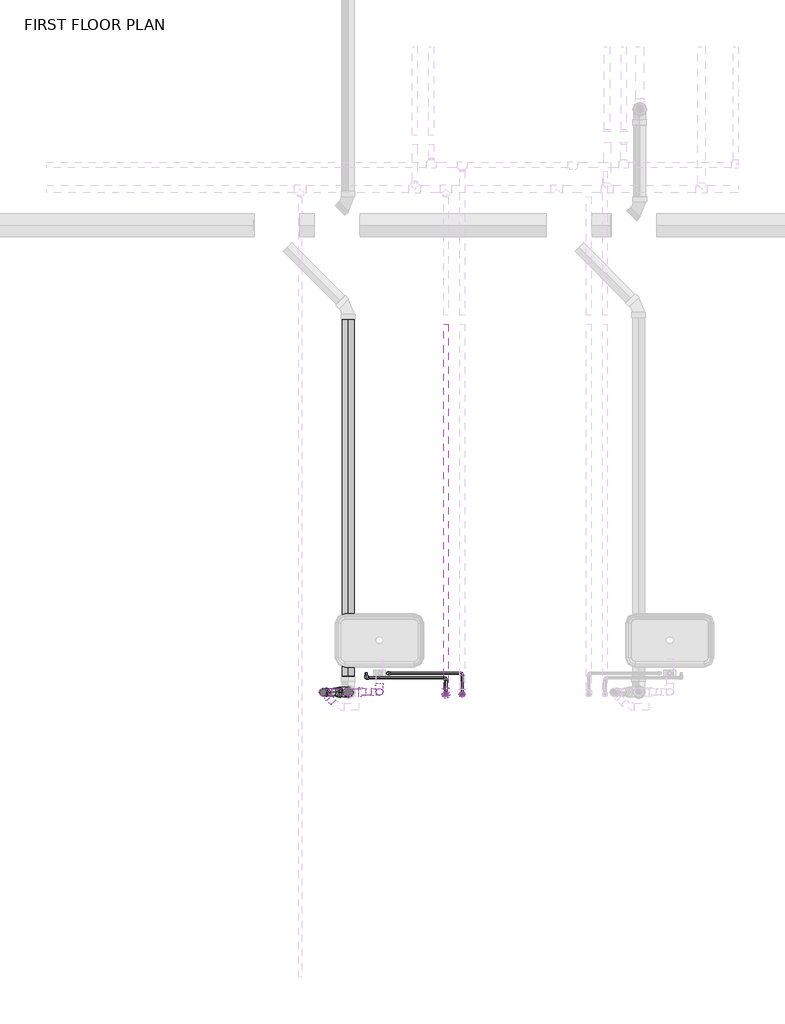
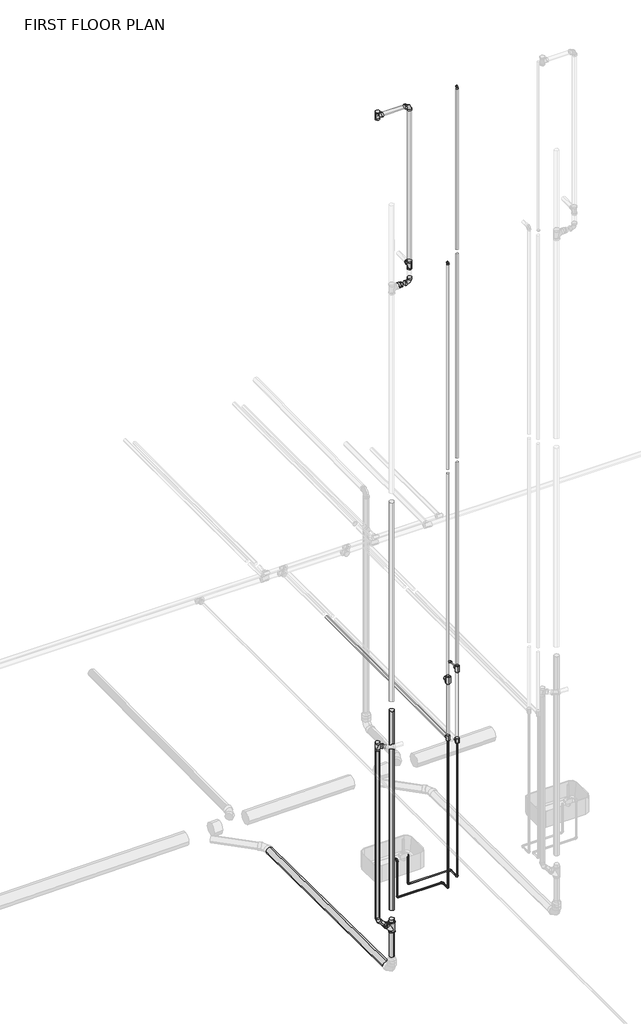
# One storey, part 10 of 29: 33 pipe fittings, 28 pipe segments.
"""IFC4 building model written with IfcOpenShell, lengths in millimetres."""

from ifc_helpers import new_model, si_unit, point, frame, frame_2d, origin, place, context, project, spatial, circle_curve, trimmed, segment, composite_curve, outline, extrude, transform, mapped, element, save
from ifc_brep_helpers import plane_surface, cylinder_surface, advanced_brep
from components import bend_pvc_sch_40_dwv_standard_80f96eb1, bend_pvc_sch_40_dwv_standard_35af41d9, bend_pvc_sch_40_dwv_standard_07560f8e, ges_wye_45_deg_threaded_mi_class_150_cast_iron_sanitary_c88a242e, pipe_elbow_copper_k_aad62f2d, pipe_elbow_copper_k_4cfe590c, pipe_tee_copper_k_36278b8a, pipe_tee_copper_k_7127fd44, pipe_tee_copper_k_60c871d1, pipe_transition_copper_k_5cd7eb3f, pipe_transition_copper_k_e8f139fb, pipe_transition_copper_k_0ad24bcb, pipe_transition_copper_k_8ba7ae3f, pipe_transition_copper_k_0f2e1631, pipe_transition_copper_k_f9440895, pipe_transition_copper_k_17d9deb3, pipe_transition_copper_k_4b29cc47, pipe_transition_copper_k_2a5e9307, pipe_transition_copper_k_c38f01a1, reducer_pvc_sch_40_dwv_standard_b23fa098, tee_sanitary_pvc_sch_40_dwv_standard_3578d342, tee_sanitary_pvc_sch_40_dwv_standard_31acfb72, tee_sanitary_pvc_sch_40_dwv_standard_70a8f0c3

model = new_model("IFC4")

# Units and contexts
model_context = context("Model", 3, world=origin())
ifc_project = project(units=[si_unit("LENGTHUNIT", "METRE", prefix="MILLI")], contexts=[model_context])

# Site, building, storey
site = spatial("IfcSite", under=ifc_project)
building = spatial("IfcBuilding", under=site)
storey = spatial("IfcBuildingStorey", under=building, Name="FIRST FLOOR PLAN", Elevation=0.0)

# Pipe fittings
placement = place(None, origin())
bend_pvc_sch_40_dwv_standard_shape = bend_pvc_sch_40_dwv_standard_80f96eb1(model_context)
element("IfcPipeFitting", 1, ObjectType="Bend - PVC - Sch 40 - DWV : Standard", at=placement, inside=storey, context=model_context, shape_type="MappedRepresentation", body=[
    mapped(bend_pvc_sch_40_dwv_standard_shape, transform((8467.5166496, 2089.7012881, 8872.178232), x_axis=(0.0, 0.0, -1.0), y_axis=(1.0, 0.0, 0.0), z_axis=(0.0, -1.0, 0.0))),
])
bend_pvc_sch_40_dwv_standard_2_shape = bend_pvc_sch_40_dwv_standard_35af41d9(model_context)
element("IfcPipeFitting", 2, ObjectType="Bend - PVC - Sch 40 - DWV : Standard", at=placement, inside=storey, context=model_context, shape_type="MappedRepresentation", body=[
    mapped(bend_pvc_sch_40_dwv_standard_2_shape, transform((8467.5209875, 2089.7012881, 11280.7857867), x_axis=(0.0, 0.0, 1.0), y_axis=(1.0, 0.0, 0.0), z_axis=(0.0, 1.0, 0.0))),
])
bend_pvc_sch_40_dwv_standard_3_shape = bend_pvc_sch_40_dwv_standard_07560f8e(model_context)
element("IfcPipeFitting", 3, ObjectType="Bend - PVC - Sch 40 - DWV : Standard", at=placement, inside=storey, context=model_context, shape_type="MappedRepresentation", body=[
    mapped(bend_pvc_sch_40_dwv_standard_3_shape, transform((8054.0612167, 2088.8602116, 307.0641667), x_axis=(0.0, 0.0, -1.0), y_axis=(-0.9999896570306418, -0.004548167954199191, 0.0), z_axis=(-0.004548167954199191, 0.9999896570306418, 0.0))),
])
ges_wye_45_deg_threaded_mi_class_150_cast_iron_sanitary_shape = ges_wye_45_deg_threaded_mi_class_150_cast_iron_sanitary_c88a242e(model_context)
element("IfcPipeFitting", 4, ObjectType="GES Wye 45 Deg - Threaded - MI - Class 150 : Cast Iron- Sanitary", at=placement, inside=storey, context=model_context, shape_type="MappedRepresentation", body=[
    mapped(ges_wye_45_deg_threaded_mi_class_150_cast_iron_sanitary_shape, transform((8238.7396365, 2089.8941393, 122.1428758), x_axis=(0.0, 0.0, 1.0), y_axis=(-0.9999896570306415, -0.004548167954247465, 0.0), z_axis=(0.004548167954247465, -0.9999896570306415, 0.0))),
])
pipe_elbow_copper_k_shape = pipe_elbow_copper_k_aad62f2d(model_context)
element("IfcPipeFitting", 5, ObjectType="Pipe Elbow : Copper- K", at=placement, inside=storey, context=model_context, shape_type="MappedRepresentation", body=[
    mapped(pipe_elbow_copper_k_shape, transform((9073.5913377, 2227.8137881, 3393.4757324), x_axis=(0.0, 1.0, 0.0), y_axis=(-0.9999999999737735, 0.0, 7.242448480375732e-06), z_axis=(7.242448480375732e-06, 0.0, 0.9999999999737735))),
])
element("IfcPipeFitting", 6, ObjectType="Pipe Elbow : Copper- K", at=placement, inside=storey, context=model_context, shape_type="MappedRepresentation", body=[
    mapped(pipe_elbow_copper_k_shape, transform((8370.2391516, 2195.725865, 436.8601562), x_axis=(-1.0, 0.0, 0.0), y_axis=(0.0, 0.0, 1.0), z_axis=(0.0, 1.0, 0.0))),
])
element("IfcPipeFitting", 7, ObjectType="Pipe Elbow : Copper- K", at=placement, inside=storey, context=model_context, shape_type="MappedRepresentation", body=[
    mapped(pipe_elbow_copper_k_shape, transform((8370.2391516, 2195.725865, 944.8601562), x_axis=(0.0, 0.0, 1.0), y_axis=(0.0, 1.0, 0.0), z_axis=(-1.0, 0.0, 0.0))),
])
element("IfcPipeFitting", 8, ObjectType="Pipe Elbow : Copper- K", at=placement, inside=storey, context=model_context, shape_type="MappedRepresentation", body=[
    mapped(pipe_elbow_copper_k_shape, transform((8954.4391516, 2071.7561808, 8971.2601562), x_axis=(0.0, 0.0, 1.0), y_axis=(0.0, 1.0, 0.0), z_axis=(-1.0, 0.0, 0.0))),
])
element("IfcPipeFitting", 9, ObjectType="Pipe Elbow : Copper- K", at=placement, inside=storey, context=model_context, shape_type="MappedRepresentation", body=[
    mapped(pipe_elbow_copper_k_shape, transform((9073.5913377, 2071.7561808, 548.6757324), x_axis=(0.0, 0.0, -1.0), y_axis=(0.0, 1.0, 0.0), z_axis=(1.0, 0.0, 0.0))),
])
element("IfcPipeFitting", 10, ObjectType="Pipe Elbow : Copper- K", at=placement, inside=storey, context=model_context, shape_type="MappedRepresentation", body=[
    mapped(pipe_elbow_copper_k_shape, transform((9073.5913377, 2227.8137881, 548.6757324), x_axis=(0.0, 1.0, 0.0), y_axis=(-0.9999999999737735, 0.0, 7.242448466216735e-06), z_axis=(7.242448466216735e-06, 0.0, 0.9999999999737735))),
])
element("IfcPipeFitting", 11, ObjectType="Pipe Elbow : Copper- K", at=placement, inside=storey, context=model_context, shape_type="MappedRepresentation", body=[
    mapped(pipe_elbow_copper_k_shape, transform((8954.4391516, 2195.725865, 436.8601562), x_axis=(0.0, 1.0, 0.0), y_axis=(-1.0, 0.0, 0.0), z_axis=(0.0, 0.0, 1.0))),
])
element("IfcPipeFitting", 12, ObjectType="Pipe Elbow : Copper- K", at=placement, inside=storey, context=model_context, shape_type="MappedRepresentation", body=[
    mapped(pipe_elbow_copper_k_shape, transform((8954.4391516, 2071.7561808, 436.8601562), x_axis=(0.0, -1.0, 0.0), y_axis=(0.0, 0.0, 1.0), z_axis=(-1.0, 0.0, 0.0))),
])
element("IfcPipeFitting", 13, ObjectType="Pipe Elbow : Copper- K", at=placement, inside=storey, context=model_context, shape_type="MappedRepresentation", body=[
    mapped(pipe_elbow_copper_k_shape, transform((9073.5929161, 2071.7561808, 11328.4), x_axis=(0.0, 0.0, 1.0), y_axis=(0.0, 1.0, 0.0), z_axis=(-1.0, 0.0, 0.0))),
])
pipe_elbow_copper_k_2_shape = pipe_elbow_copper_k_4cfe590c(model_context)
element("IfcPipeFitting", 14, ObjectType="Pipe Elbow : Copper- K", at=placement, inside=storey, context=model_context, shape_type="MappedRepresentation", body=[
    mapped(pipe_elbow_copper_k_2_shape, transform((8527.4913377, 2227.8137881, 548.6796875), x_axis=(0.0, 0.0, -1.0), y_axis=(1.0, 0.0, 0.0), z_axis=(0.0, -1.0, 0.0))),
])
pipe_tee_copper_k_shape = pipe_tee_copper_k_36278b8a(model_context)
element("IfcPipeFitting", 15, ObjectType="Pipe Tee : Copper- K", at=placement, inside=storey, context=model_context, shape_type="MappedRepresentation", body=[
    mapped(pipe_tee_copper_k_shape, transform((8954.4391516, 2071.7561808, 3281.6214111), x_axis=(0.0, 0.0, 1.0), y_axis=(0.0, -1.0, 0.0), z_axis=(1.0, 0.0, 0.0))),
])
pipe_tee_copper_k_2_shape = pipe_tee_copper_k_7127fd44(model_context)
element("IfcPipeFitting", 16, ObjectType="Pipe Tee : Copper- K", at=placement, inside=storey, context=model_context, shape_type="MappedRepresentation", body=[
    mapped(pipe_tee_copper_k_2_shape, transform((9073.5913377, 2071.7561808, 3393.4757324), x_axis=(0.0, 0.0, 1.0), y_axis=(0.0, -1.0, 0.0), z_axis=(1.0, 0.0, 0.0))),
])
pipe_tee_copper_k_3_shape = pipe_tee_copper_k_60c871d1(model_context)
element("IfcPipeFitting", 17, ObjectType="Pipe Tee : Copper- K", at=placement, inside=storey, context=model_context, shape_type="MappedRepresentation", body=[
    mapped(pipe_tee_copper_k_3_shape, transform((9073.5913377, 2071.7561808, 2413.0), x_axis=(0.0, 0.0, -1.0), y_axis=(0.0, -1.0, 0.0), z_axis=(-1.0, 0.0, 0.0))),
])
element("IfcPipeFitting", 18, ObjectType="Pipe Tee : Copper- K", at=placement, inside=storey, context=model_context, shape_type="MappedRepresentation", body=[
    mapped(pipe_tee_copper_k_3_shape, transform((8954.4391516, 2071.7561808, 2490.6882812), x_axis=(0.0, 0.0, -1.0), y_axis=(0.0, -1.0, 0.0), z_axis=(-1.0, 0.0, 0.0))),
])
pipe_transition_copper_k_shape = pipe_transition_copper_k_5cd7eb3f(model_context)
element("IfcPipeFitting", 19, ObjectType="Pipe Transition : Copper- K", at=placement, inside=storey, context=model_context, shape_type="MappedRepresentation", body=[
    mapped(pipe_transition_copper_k_shape, transform((8954.4391516, 2071.7561808, 3324.4839111), x_axis=(0.0, 0.0, 1.0), y_axis=(-1.0, 0.0, 0.0), z_axis=(0.0, -1.0, 0.0))),
])
pipe_transition_copper_k_2_shape = pipe_transition_copper_k_e8f139fb(model_context)
element("IfcPipeFitting", 20, ObjectType="Pipe Transition : Copper- K", at=placement, inside=storey, context=model_context, shape_type="MappedRepresentation", body=[
    mapped(pipe_transition_copper_k_2_shape, transform((8954.4391516, 2114.6186808, 3281.6214111), x_axis=(0.0, 1.0, 0.0), y_axis=(-1.0, 0.0, 0.0), z_axis=(0.0, 0.0, 1.0))),
])
pipe_transition_copper_k_3_shape = pipe_transition_copper_k_0ad24bcb(model_context)
element("IfcPipeFitting", 21, ObjectType="Pipe Transition : Copper- K", at=placement, inside=storey, context=model_context, shape_type="MappedRepresentation", body=[
    mapped(pipe_transition_copper_k_3_shape, transform((9073.5913377, 2108.2686808, 3393.4757324), x_axis=(0.0, 1.0, 0.0), y_axis=(-1.0, 0.0, 0.0), z_axis=(0.0, 0.0, 1.0))),
])
pipe_transition_copper_k_4_shape = pipe_transition_copper_k_8ba7ae3f(model_context)
element("IfcPipeFitting", 22, ObjectType="Pipe Transition : Copper- K", at=placement, inside=storey, context=model_context, shape_type="MappedRepresentation", body=[
    mapped(pipe_transition_copper_k_4_shape, transform((8954.4391516, 2071.7561808, 8953.7976562), x_axis=(0.0, 0.0, -1.0), y_axis=(1.0, 0.0, 0.0), z_axis=(0.0, -1.0, 0.0))),
])
pipe_transition_copper_k_5_shape = pipe_transition_copper_k_0f2e1631(model_context)
element("IfcPipeFitting", 23, ObjectType="Pipe Transition : Copper- K", at=placement, inside=storey, context=model_context, shape_type="MappedRepresentation", body=[
    mapped(pipe_transition_copper_k_5_shape, transform((9073.5913377, 2071.7561808, 3429.9882324), x_axis=(0.0, 0.0, 1.0), y_axis=(-1.0, 0.0, 0.0), z_axis=(0.0, -1.0, 0.0))),
])
pipe_transition_copper_k_6_shape = pipe_transition_copper_k_f9440895(model_context)
element("IfcPipeFitting", 24, ObjectType="Pipe Transition : Copper- K", at=placement, inside=storey, context=model_context, shape_type="MappedRepresentation", body=[
    mapped(pipe_transition_copper_k_6_shape, transform((9073.5913377, 2071.7561808, 3356.9632324), x_axis=(0.0, 0.0, -1.0), y_axis=(-1.0, 0.0, 0.0), z_axis=(0.0, 1.0, 0.0))),
])
pipe_transition_copper_k_7_shape = pipe_transition_copper_k_17d9deb3(model_context)
element("IfcPipeFitting", 25, ObjectType="Pipe Transition : Copper- K", at=placement, inside=storey, context=model_context, shape_type="MappedRepresentation", body=[
    mapped(pipe_transition_copper_k_7_shape, transform((8954.4391516, 2071.7561808, 3238.7589111), x_axis=(0.0, 0.0, -1.0), y_axis=(-1.0, 0.0, 0.0), z_axis=(0.0, 1.0, 0.0))),
])
pipe_transition_copper_k_8_shape = pipe_transition_copper_k_4b29cc47(model_context)
element("IfcPipeFitting", 26, ObjectType="Pipe Transition : Copper- K", at=placement, inside=storey, context=model_context, shape_type="MappedRepresentation", body=[
    mapped(pipe_transition_copper_k_8_shape, transform((9073.5913377, 2071.7561808, 2379.6625), x_axis=(0.0, 0.0, -1.0), y_axis=(1.0, 0.0, 0.0), z_axis=(0.0, -1.0, 0.0))),
])
pipe_transition_copper_k_9_shape = pipe_transition_copper_k_2a5e9307(model_context)
element("IfcPipeFitting", 27, ObjectType="Pipe Transition : Copper- K", at=placement, inside=storey, context=model_context, shape_type="MappedRepresentation", body=[
    mapped(pipe_transition_copper_k_9_shape, transform((8954.4391516, 2071.7561808, 2452.9851562), x_axis=(0.0, 0.0, 1.0), y_axis=(-1.0, 0.0, 0.0), z_axis=(0.0, -1.0, 0.0))),
])
pipe_transition_copper_k_10_shape = pipe_transition_copper_k_c38f01a1(model_context)
element("IfcPipeFitting", 28, ObjectType="Pipe Transition : Copper- K", at=placement, inside=storey, context=model_context, shape_type="MappedRepresentation", body=[
    mapped(pipe_transition_copper_k_10_shape, transform((9073.5913377, 2071.7561808, 11303.79375), x_axis=(0.0, 0.0, 1.0), y_axis=(-1.0, 0.0, 0.0), z_axis=(0.0, -1.0, 0.0))),
])
reducer_pvc_sch_40_dwv_standard_shape = reducer_pvc_sch_40_dwv_standard_b23fa098(model_context)
element("IfcPipeFitting", 29, ObjectType="Reducer - PVC - Sch 40 - DWV : Standard", at=placement, inside=storey, context=model_context, shape_type="MappedRepresentation", body=[
    mapped(reducer_pvc_sch_40_dwv_standard_shape, transform((8316.7788699, 2089.7012881, 8870.6080468), x_axis=(0.9999457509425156, 0.0, 0.010416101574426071), y_axis=(0.0, 1.0000000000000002, 0.0), z_axis=(-0.010416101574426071, 0.0, 0.9999457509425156))),
])
element("IfcPipeFitting", 30, ObjectType="Reducer - PVC - Sch 40 - DWV : Standard", at=placement, inside=storey, context=model_context, shape_type="MappedRepresentation", body=[
    mapped(reducer_pvc_sch_40_dwv_standard_shape, transform((8167.1481354, 2089.3745552, 193.9792248), x_axis=(-0.7071093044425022, -0.0032160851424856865, 0.7070969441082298), y_axis=(0.004548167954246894, -0.9999896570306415, 0.0), z_axis=(0.7070896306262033, 0.003215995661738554, 0.7071166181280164))),
])
tee_sanitary_pvc_sch_40_dwv_standard_shape = tee_sanitary_pvc_sch_40_dwv_standard_3578d342(model_context)
element("IfcPipeFitting", 31, ObjectType="Tee Sanitary - PVC - Sch 40 - DWV : Standard", at=placement, inside=storey, context=model_context, shape_type="MappedRepresentation", body=[
    mapped(tee_sanitary_pvc_sch_40_dwv_standard_shape, transform((8467.5209875, 2089.7012881, 9112.4170389), x_axis=(0.0, 0.0, 1.0), y_axis=(0.0, 1.0, 0.0), z_axis=(-1.0, 0.0, 0.0))),
])
tee_sanitary_pvc_sch_40_dwv_standard_2_shape = tee_sanitary_pvc_sch_40_dwv_standard_31acfb72(model_context)
element("IfcPipeFitting", 32, ObjectType="Tee Sanitary - PVC - Sch 40 - DWV : Standard", at=placement, inside=storey, context=model_context, shape_type="MappedRepresentation", body=[
    mapped(tee_sanitary_pvc_sch_40_dwv_standard_2_shape, transform((8054.0611988, 2088.8641446, 2687.3998234), x_axis=(0.0, 0.0, 1.0), y_axis=(0.7098586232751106, -0.7043441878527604, 0.0), z_axis=(0.7043441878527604, 0.7098586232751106, 0.0))),
])
tee_sanitary_pvc_sch_40_dwv_standard_3_shape = tee_sanitary_pvc_sch_40_dwv_standard_70a8f0c3(model_context)
element("IfcPipeFitting", 33, ObjectType="Tee Sanitary - PVC - Sch 40 - DWV : Standard", at=placement, inside=storey, context=model_context, shape_type="MappedRepresentation", body=[
    mapped(tee_sanitary_pvc_sch_40_dwv_standard_3_shape, transform((8054.0611988, 2088.8641446, 11280.7857867), x_axis=(0.0, 0.0, -1.0), y_axis=(0.9999958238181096, 0.0028900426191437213, 0.0), z_axis=(0.0028900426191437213, -0.9999958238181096, 0.0))),
])

# Pipe segments
element("IfcPipeSegment", 34, ObjectType="Copper", at=placement, inside=storey, context=model_context, shape_type="SweptSolid", body=[
    extrude(outline(composite_curve([segment(trimmed(circle_curve(frame_2d((2490.6882812, 8954.4391516)), 17.4625), [point((2490.6882812, 8936.9766516))], [point((2473.2257812, 8954.4391516))], False, "CARTESIAN"), True, "CONTINUOUS"), segment(trimmed(circle_curve(frame_2d((2490.6882812, 8954.4391516)), 17.4625), [point((2473.2257812, 8954.4391516))], [point((2490.6882812, 8971.9016516))], False, "CARTESIAN"), True, "CONTINUOUS"), segment(trimmed(circle_curve(frame_2d((2490.6882812, 8954.4391516)), 17.4625), [point((2490.6882812, 8971.9016516))], [point((2508.1507812, 8954.4391516))], False, "CARTESIAN"), True, "CONTINUOUS"), segment(trimmed(circle_curve(frame_2d((2490.6882812, 8954.4391516)), 17.4625), [point((2508.1507812, 8954.4391516))], [point((2490.6882812, 8936.9766516))], False, "CARTESIAN"), True, "CONTINUOUS")], self_intersect=False)), frame((0.0, 2105.0936808, 0.0), z_axis=(0.0, 1.0, 0.0), x_axis=(0.0, 0.0, 1.0)), (0.0, 0.0, 1.0), 2680.7102322),
])
element("IfcPipeSegment", 35, ObjectType="Copper", at=placement, inside=storey, context=model_context, shape_type="SweptSolid", body=[
    extrude(outline(composite_curve([segment(trimmed(circle_curve(frame_2d((8954.4391516, 2071.7561808)), 14.2875), [point((8940.1516516, 2071.7561808))], [point((8954.4391516, 2086.0436808))], False, "CARTESIAN"), True, "CONTINUOUS"), segment(trimmed(circle_curve(frame_2d((8954.4391516, 2071.7561808)), 14.2875), [point((8954.4391516, 2086.0436808))], [point((8968.7266516, 2071.7561808))], False, "CARTESIAN"), True, "CONTINUOUS"), segment(trimmed(circle_curve(frame_2d((8954.4391516, 2071.7561808)), 14.2875), [point((8968.7266516, 2071.7561808))], [point((8954.4391516, 2057.4686808))], False, "CARTESIAN"), True, "CONTINUOUS"), segment(trimmed(circle_curve(frame_2d((8954.4391516, 2071.7561808)), 14.2875), [point((8954.4391516, 2057.4686808))], [point((8940.1516516, 2071.7561808))], False, "CARTESIAN"), True, "CONTINUOUS")], self_intersect=False)), frame((0.0, 0.0, 6156.6226563), z_axis=(0.0, 0.0, 1.0), x_axis=(1.0, 0.0, 0.0)), (0.0, 0.0, 1.0), 2793.603125),
])
element("IfcPipeSegment", 36, ObjectType="Copper", at=placement, inside=storey, context=model_context, shape_type="SweptSolid", body=[
    extrude(outline(composite_curve([segment(trimmed(circle_curve(frame_2d((9073.5913377, 2071.7561808)), 14.2875), [point((9059.3038377, 2071.7561808))], [point((9073.5913377, 2086.0436808))], False, "CARTESIAN"), True, "CONTINUOUS"), segment(trimmed(circle_curve(frame_2d((9073.5913377, 2071.7561808)), 14.2875), [point((9073.5913377, 2086.0436808))], [point((9087.8788377, 2071.7561808))], False, "CARTESIAN"), True, "CONTINUOUS"), segment(trimmed(circle_curve(frame_2d((9073.5913377, 2071.7561808)), 14.2875), [point((9087.8788377, 2071.7561808))], [point((9073.5913377, 2057.4686808))], False, "CARTESIAN"), True, "CONTINUOUS"), segment(trimmed(circle_curve(frame_2d((9073.5913377, 2071.7561808)), 14.2875), [point((9073.5913377, 2057.4686808))], [point((9059.3038377, 2071.7561808))], False, "CARTESIAN"), True, "CONTINUOUS")], self_intersect=False)), frame((0.0, 0.0, 9113.2382324), z_axis=(0.0, 0.0, 1.0), x_axis=(1.0, 0.0, 0.0)), (0.0, 0.0, 1.0), 2190.5555176),
])
element("IfcPipeSegment", 37, ObjectType="Copper", at=placement, inside=storey, context=model_context, shape_type="SweptSolid", body=[
    extrude(outline(composite_curve([segment(trimmed(circle_curve(frame_2d((3393.4757324, 9073.5913377)), 7.9375), [point((3393.4757324, 9081.5288377))], [point((3401.4132324, 9073.5913377))], False, "CARTESIAN"), True, "CONTINUOUS"), segment(trimmed(circle_curve(frame_2d((3393.4757324, 9073.5913377)), 7.9375), [point((3401.4132324, 9073.5913377))], [point((3393.4757324, 9065.6538377))], False, "CARTESIAN"), True, "CONTINUOUS"), segment(trimmed(circle_curve(frame_2d((3393.4757324, 9073.5913377)), 7.9375), [point((3393.4757324, 9065.6538377))], [point((3385.5382324, 9073.5913377))], False, "CARTESIAN"), True, "CONTINUOUS"), segment(trimmed(circle_curve(frame_2d((3393.4757324, 9073.5913377)), 7.9375), [point((3385.5382324, 9073.5913377))], [point((3393.4757324, 9081.5288377))], False, "CARTESIAN"), True, "CONTINUOUS")], self_intersect=False)), frame((0.0, 2118.5874308, 0.0), z_axis=(0.0, 1.0, 0.0), x_axis=(0.0, 0.0, 1.0)), (0.0, 0.0, 1.0), 91.7638572),
])
element("IfcPipeSegment", 38, ObjectType="Copper", at=placement, inside=storey, context=model_context, shape_type="SweptSolid", body=[
    extrude(outline(composite_curve([segment(trimmed(circle_curve(frame_2d((9073.5913377, 2071.7561808)), 17.4625), [point((9056.1288377, 2071.7561808))], [point((9073.5913377, 2089.2186808))], False, "CARTESIAN"), True, "CONTINUOUS"), segment(trimmed(circle_curve(frame_2d((9073.5913377, 2071.7561808)), 17.4625), [point((9073.5913377, 2089.2186808))], [point((9091.0538377, 2071.7561808))], False, "CARTESIAN"), True, "CONTINUOUS"), segment(trimmed(circle_curve(frame_2d((9073.5913377, 2071.7561808)), 17.4625), [point((9091.0538377, 2071.7561808))], [point((9073.5913377, 2054.2936808))], False, "CARTESIAN"), True, "CONTINUOUS"), segment(trimmed(circle_curve(frame_2d((9073.5913377, 2071.7561808)), 17.4625), [point((9073.5913377, 2054.2936808))], [point((9056.1288377, 2071.7561808))], False, "CARTESIAN"), True, "CONTINUOUS")], self_intersect=False)), frame((0.0, 0.0, 2446.3375), z_axis=(0.0, 0.0, 1.0), x_axis=(1.0, 0.0, 0.0)), (0.0, 0.0, 1.0), 900.3069824),
])
element("IfcPipeSegment", 39, ObjectType="Copper", at=placement, inside=storey, context=model_context, shape_type="SweptSolid", body=[
    extrude(outline(composite_curve([segment(trimmed(circle_curve(frame_2d((8954.4391516, 2071.7561808)), 17.4625), [point((8936.9766516, 2071.7561808))], [point((8954.4391516, 2089.2186808))], False, "CARTESIAN"), True, "CONTINUOUS"), segment(trimmed(circle_curve(frame_2d((8954.4391516, 2071.7561808)), 17.4625), [point((8954.4391516, 2089.2186808))], [point((8971.9016516, 2071.7561808))], False, "CARTESIAN"), True, "CONTINUOUS"), segment(trimmed(circle_curve(frame_2d((8954.4391516, 2071.7561808)), 17.4625), [point((8971.9016516, 2071.7561808))], [point((8954.4391516, 2054.2936808))], False, "CARTESIAN"), True, "CONTINUOUS"), segment(trimmed(circle_curve(frame_2d((8954.4391516, 2071.7561808)), 17.4625), [point((8954.4391516, 2054.2936808))], [point((8936.9766516, 2071.7561808))], False, "CARTESIAN"), True, "CONTINUOUS")], self_intersect=False)), frame((0.0, 0.0, 2524.0257812), z_axis=(0.0, 0.0, 1.0), x_axis=(1.0, 0.0, 0.0)), (0.0, 0.0, 1.0), 701.2393798),
])
element("IfcPipeSegment", 40, ObjectType="Copper", at=placement, inside=storey, context=model_context, shape_type="SweptSolid", body=[
    extrude(outline(composite_curve([segment(trimmed(circle_curve(frame_2d((944.8601562, 8370.2391516)), 7.9375), [point((944.8601562, 8378.1766516))], [point((952.7976562, 8370.2391516))], False, "CARTESIAN"), True, "CONTINUOUS"), segment(trimmed(circle_curve(frame_2d((944.8601562, 8370.2391516)), 7.9375), [point((952.7976562, 8370.2391516))], [point((944.8601562, 8362.3016516))], False, "CARTESIAN"), True, "CONTINUOUS"), segment(trimmed(circle_curve(frame_2d((944.8601562, 8370.2391516)), 7.9375), [point((944.8601562, 8362.3016516))], [point((936.9226562, 8370.2391516))], False, "CARTESIAN"), True, "CONTINUOUS"), segment(trimmed(circle_curve(frame_2d((944.8601562, 8370.2391516)), 7.9375), [point((936.9226562, 8370.2391516))], [point((944.8601562, 8378.1766516))], False, "CARTESIAN"), True, "CONTINUOUS")], self_intersect=False)), frame((0.0, 2213.188365, 0.0), z_axis=(0.0, 1.0, 0.0), x_axis=(0.0, 0.0, 1.0)), (0.0, 0.0, 1.0), 17.3178158),
])
element("IfcPipeSegment", 41, ObjectType="Copper", at=placement, inside=storey, context=model_context, shape_type="SweptSolid", body=[
    extrude(outline(composite_curve([segment(trimmed(circle_curve(frame_2d((0.0, 7.9375)), 7.9375), [point((-7.9375, 7.9375))], [point((0.0, 15.875))], False, "CARTESIAN"), True, "CONTINUOUS"), segment(trimmed(circle_curve(frame_2d((0.0, 7.9375)), 7.9375), [point((0.0, 15.875))], [point((7.9375, 7.9375))], False, "CARTESIAN"), True, "CONTINUOUS"), segment(trimmed(circle_curve(frame_2d((0.0, 7.9375)), 7.9375), [point((7.9375, 7.9375))], [point((0.0, 0.0))], False, "CARTESIAN"), True, "CONTINUOUS"), segment(trimmed(circle_curve(frame_2d((0.0, 7.9375)), 7.9375), [point((0.0, 0.0))], [point((-7.9375, 7.9375))], False, "CARTESIAN"), True, "CONTINUOUS")], self_intersect=False)), frame((9056.1287803, 2227.8137881, 540.7383589), z_axis=(-0.9999999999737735, 0.0, 7.242448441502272e-06), x_axis=(0.0, -1.0, 0.0)), (0.0, 0.0, 1.0), 511.1751265),
])
element("IfcPipeSegment", 42, ObjectType="Copper", at=placement, inside=storey, context=model_context, shape_type="SweptSolid", body=[
    extrude(outline(composite_curve([segment(trimmed(circle_curve(frame_2d((8527.4913377, 2227.8137881)), 7.9375), [point((8519.5538377, 2227.8137881))], [point((8527.4913377, 2235.7512881))], False, "CARTESIAN"), True, "CONTINUOUS"), segment(trimmed(circle_curve(frame_2d((8527.4913377, 2227.8137881)), 7.9375), [point((8527.4913377, 2235.7512881))], [point((8535.4288377, 2227.8137881))], False, "CARTESIAN"), True, "CONTINUOUS"), segment(trimmed(circle_curve(frame_2d((8527.4913377, 2227.8137881)), 7.9375), [point((8535.4288377, 2227.8137881))], [point((8527.4913377, 2219.8762881))], False, "CARTESIAN"), True, "CONTINUOUS"), segment(trimmed(circle_curve(frame_2d((8527.4913377, 2227.8137881)), 7.9375), [point((8527.4913377, 2219.8762881))], [point((8519.5538377, 2227.8137881))], False, "CARTESIAN"), True, "CONTINUOUS")], self_intersect=False)), frame((0.0, 0.0, 566.142061), z_axis=(0.0, 0.0, 1.0), x_axis=(1.0, 0.0, 0.0)), (0.0, 0.0, 1.0), 378.7180952),
])
element("IfcPipeSegment", 43, ObjectType="Copper", at=placement, inside=storey, context=model_context, shape_type="SweptSolid", body=[
    extrude(outline(composite_curve([segment(trimmed(circle_curve(frame_2d((2195.725865, 436.8601562)), 7.9375), [point((2203.663365, 436.8601562))], [point((2195.725865, 428.9226562))], False, "CARTESIAN"), True, "CONTINUOUS"), segment(trimmed(circle_curve(frame_2d((2195.725865, 436.8601562)), 7.9375), [point((2195.725865, 428.9226562))], [point((2187.788365, 436.8601562))], False, "CARTESIAN"), True, "CONTINUOUS"), segment(trimmed(circle_curve(frame_2d((2195.725865, 436.8601562)), 7.9375), [point((2187.788365, 436.8601562))], [point((2195.725865, 444.7976562))], False, "CARTESIAN"), True, "CONTINUOUS"), segment(trimmed(circle_curve(frame_2d((2195.725865, 436.8601562)), 7.9375), [point((2195.725865, 444.7976562))], [point((2203.663365, 436.8601562))], False, "CARTESIAN"), True, "CONTINUOUS")], self_intersect=False)), frame((8387.7016516, 0.0, 0.0), z_axis=(1.0, 0.0, 0.0), x_axis=(0.0, 1.0, 0.0)), (0.0, 0.0, 1.0), 549.275),
])
element("IfcPipeSegment", 44, ObjectType="Copper", at=placement, inside=storey, context=model_context, shape_type="SweptSolid", body=[
    extrude(outline(composite_curve([segment(trimmed(circle_curve(frame_2d((8370.2391516, 2195.725865)), 7.9375), [point((8362.3016516, 2195.725865))], [point((8370.2391516, 2203.663365))], False, "CARTESIAN"), True, "CONTINUOUS"), segment(trimmed(circle_curve(frame_2d((8370.2391516, 2195.725865)), 7.9375), [point((8370.2391516, 2203.663365))], [point((8378.1766516, 2195.725865))], False, "CARTESIAN"), True, "CONTINUOUS"), segment(trimmed(circle_curve(frame_2d((8370.2391516, 2195.725865)), 7.9375), [point((8378.1766516, 2195.725865))], [point((8370.2391516, 2187.788365))], False, "CARTESIAN"), True, "CONTINUOUS"), segment(trimmed(circle_curve(frame_2d((8370.2391516, 2195.725865)), 7.9375), [point((8370.2391516, 2187.788365))], [point((8362.3016516, 2195.725865))], False, "CARTESIAN"), True, "CONTINUOUS")], self_intersect=False)), frame((0.0, 0.0, 454.3226562), z_axis=(0.0, 0.0, 1.0), x_axis=(1.0, 0.0, 0.0)), (0.0, 0.0, 1.0), 473.075),
])
element("IfcPipeSegment", 45, ObjectType="Copper", at=placement, inside=storey, context=model_context, shape_type="SweptSolid", body=[
    extrude(outline(composite_curve([segment(trimmed(circle_curve(frame_2d((9073.5913377, 2071.7561808)), 14.2875), [point((9059.3038377, 2071.7561808))], [point((9073.5913377, 2086.0436808))], False, "CARTESIAN"), True, "CONTINUOUS"), segment(trimmed(circle_curve(frame_2d((9073.5913377, 2071.7561808)), 14.2875), [point((9073.5913377, 2086.0436808))], [point((9087.8788377, 2071.7561808))], False, "CARTESIAN"), True, "CONTINUOUS"), segment(trimmed(circle_curve(frame_2d((9073.5913377, 2071.7561808)), 14.2875), [point((9087.8788377, 2071.7561808))], [point((9073.5913377, 2057.4686808))], False, "CARTESIAN"), True, "CONTINUOUS"), segment(trimmed(circle_curve(frame_2d((9073.5913377, 2071.7561808)), 14.2875), [point((9073.5913377, 2057.4686808))], [point((9059.3038377, 2071.7561808))], False, "CARTESIAN"), True, "CONTINUOUS")], self_intersect=False)), frame((0.0, 0.0, 6268.4382324), z_axis=(0.0, 0.0, 1.0), x_axis=(1.0, 0.0, 0.0)), (0.0, 0.0, 1.0), 2784.475),
])
element("IfcPipeSegment", 46, ObjectType="Copper", at=placement, inside=storey, context=model_context, shape_type="SweptSolid", body=[
    extrude(outline(composite_curve([segment(trimmed(circle_curve(frame_2d((8954.4391516, 2071.7561808)), 14.2875), [point((8940.1516516, 2071.7561808))], [point((8954.4391516, 2086.0436808))], False, "CARTESIAN"), True, "CONTINUOUS"), segment(trimmed(circle_curve(frame_2d((8954.4391516, 2071.7561808)), 14.2875), [point((8954.4391516, 2086.0436808))], [point((8968.7266516, 2071.7561808))], False, "CARTESIAN"), True, "CONTINUOUS"), segment(trimmed(circle_curve(frame_2d((8954.4391516, 2071.7561808)), 14.2875), [point((8968.7266516, 2071.7561808))], [point((8954.4391516, 2057.4686808))], False, "CARTESIAN"), True, "CONTINUOUS"), segment(trimmed(circle_curve(frame_2d((8954.4391516, 2071.7561808)), 14.2875), [point((8954.4391516, 2057.4686808))], [point((8940.1516516, 2071.7561808))], False, "CARTESIAN"), True, "CONTINUOUS")], self_intersect=False)), frame((0.0, 0.0, 3337.9776611), z_axis=(0.0, 0.0, 1.0), x_axis=(1.0, 0.0, 0.0)), (0.0, 0.0, 1.0), 2758.3199952),
])
element("IfcPipeSegment", 47, ObjectType="Copper", at=placement, inside=storey, context=model_context, shape_type="SweptSolid", body=[
    extrude(outline(composite_curve([segment(trimmed(circle_curve(frame_2d((9073.5913377, 2071.7561808)), 14.2875), [point((9059.3038377, 2071.7561808))], [point((9073.5913377, 2086.0436808))], False, "CARTESIAN"), True, "CONTINUOUS"), segment(trimmed(circle_curve(frame_2d((9073.5913377, 2071.7561808)), 14.2875), [point((9073.5913377, 2086.0436808))], [point((9087.8788377, 2071.7561808))], False, "CARTESIAN"), True, "CONTINUOUS"), segment(trimmed(circle_curve(frame_2d((9073.5913377, 2071.7561808)), 14.2875), [point((9087.8788377, 2071.7561808))], [point((9073.5913377, 2057.4686808))], False, "CARTESIAN"), True, "CONTINUOUS"), segment(trimmed(circle_curve(frame_2d((9073.5913377, 2071.7561808)), 14.2875), [point((9073.5913377, 2057.4686808))], [point((9059.3038377, 2071.7561808))], False, "CARTESIAN"), True, "CONTINUOUS")], self_intersect=False)), frame((0.0, 0.0, 3440.3069824), z_axis=(0.0, 0.0, 1.0), x_axis=(1.0, 0.0, 0.0)), (0.0, 0.0, 1.0), 2767.80625),
])
element("IfcPipeSegment", 48, ObjectType="Copper", at=placement, inside=storey, context=model_context, shape_type="SweptSolid", body=[
    extrude(outline(composite_curve([segment(trimmed(circle_curve(frame_2d((9073.5913377, 2071.7561808)), 7.9375), [point((9081.5288377, 2071.7561808))], [point((9073.5913377, 2063.8186808))], False, "CARTESIAN"), True, "CONTINUOUS"), segment(trimmed(circle_curve(frame_2d((9073.5913377, 2071.7561808)), 7.9375), [point((9073.5913377, 2063.8186808))], [point((9065.6538377, 2071.7561808))], False, "CARTESIAN"), True, "CONTINUOUS"), segment(trimmed(circle_curve(frame_2d((9073.5913377, 2071.7561808)), 7.9375), [point((9065.6538377, 2071.7561808))], [point((9073.5913377, 2079.6936808))], False, "CARTESIAN"), True, "CONTINUOUS"), segment(trimmed(circle_curve(frame_2d((9073.5913377, 2071.7561808)), 7.9375), [point((9073.5913377, 2079.6936808))], [point((9081.5288377, 2071.7561808))], False, "CARTESIAN"), True, "CONTINUOUS")], self_intersect=False)), frame((0.0, 0.0, 566.1382324), z_axis=(0.0, 0.0, 1.0), x_axis=(1.0, 0.0, 0.0)), (0.0, 0.0, 1.0), 1804.7930176),
])
element("IfcPipeSegment", 49, ObjectType="Copper", at=placement, inside=storey, context=model_context, shape_type="SweptSolid", body=[
    extrude(outline(composite_curve([segment(trimmed(circle_curve(frame_2d((8954.4391516, 2071.7561808)), 7.9375), [point((8946.5016516, 2071.7561808))], [point((8954.4391516, 2079.6936808))], False, "CARTESIAN"), True, "CONTINUOUS"), segment(trimmed(circle_curve(frame_2d((8954.4391516, 2071.7561808)), 7.9375), [point((8954.4391516, 2079.6936808))], [point((8962.3766516, 2071.7561808))], False, "CARTESIAN"), True, "CONTINUOUS"), segment(trimmed(circle_curve(frame_2d((8954.4391516, 2071.7561808)), 7.9375), [point((8962.3766516, 2071.7561808))], [point((8954.4391516, 2063.8186808))], False, "CARTESIAN"), True, "CONTINUOUS"), segment(trimmed(circle_curve(frame_2d((8954.4391516, 2071.7561808)), 7.9375), [point((8954.4391516, 2063.8186808))], [point((8946.5016516, 2071.7561808))], False, "CARTESIAN"), True, "CONTINUOUS")], self_intersect=False)), frame((0.0, 0.0, 454.3226562), z_axis=(0.0, 0.0, 1.0), x_axis=(1.0, 0.0, 0.0)), (0.0, 0.0, 1.0), 1998.6625),
])
element("IfcPipeSegment", 50, ObjectType="Copper", at=placement, inside=storey, context=model_context, shape_type="SweptSolid", body=[
    extrude(outline(composite_curve([segment(trimmed(circle_curve(frame_2d((548.6757324, 9073.5913377)), 7.9375), [point((548.6757324, 9081.5288377))], [point((556.6132324, 9073.5913377))], False, "CARTESIAN"), True, "CONTINUOUS"), segment(trimmed(circle_curve(frame_2d((548.6757324, 9073.5913377)), 7.9375), [point((556.6132324, 9073.5913377))], [point((548.6757324, 9065.6538377))], False, "CARTESIAN"), True, "CONTINUOUS"), segment(trimmed(circle_curve(frame_2d((548.6757324, 9073.5913377)), 7.9375), [point((548.6757324, 9065.6538377))], [point((540.7382324, 9073.5913377))], False, "CARTESIAN"), True, "CONTINUOUS"), segment(trimmed(circle_curve(frame_2d((548.6757324, 9073.5913377)), 7.9375), [point((540.7382324, 9073.5913377))], [point((548.6757324, 9081.5288377))], False, "CARTESIAN"), True, "CONTINUOUS")], self_intersect=False)), frame((0.0, 2089.2186808, 0.0), z_axis=(0.0, 1.0, 0.0), x_axis=(0.0, 0.0, 1.0)), (0.0, 0.0, 1.0), 121.1326072),
])
element("IfcPipeSegment", 51, ObjectType="Copper", at=placement, inside=storey, context=model_context, shape_type="SweptSolid", body=[
    extrude(outline(composite_curve([segment(trimmed(circle_curve(frame_2d((436.8601562, 8954.4391516)), 7.9375), [point((436.8601562, 8946.5016516))], [point((428.9226562, 8954.4391516))], False, "CARTESIAN"), True, "CONTINUOUS"), segment(trimmed(circle_curve(frame_2d((436.8601562, 8954.4391516)), 7.9375), [point((428.9226562, 8954.4391516))], [point((436.8601562, 8962.3766516))], False, "CARTESIAN"), True, "CONTINUOUS"), segment(trimmed(circle_curve(frame_2d((436.8601562, 8954.4391516)), 7.9375), [point((436.8601562, 8962.3766516))], [point((444.7976562, 8954.4391516))], False, "CARTESIAN"), True, "CONTINUOUS"), segment(trimmed(circle_curve(frame_2d((436.8601562, 8954.4391516)), 7.9375), [point((444.7976562, 8954.4391516))], [point((436.8601562, 8946.5016516))], False, "CARTESIAN"), True, "CONTINUOUS")], self_intersect=False)), frame((0.0, 2089.2186808, 0.0), z_axis=(0.0, 1.0, 0.0), x_axis=(0.0, 0.0, 1.0)), (0.0, 0.0, 1.0), 89.0446842),
])
element("IfcPipeSegment", 52, ObjectType="PVC - SAN/STORM", at=placement, inside=storey, context=model_context, shape_type="SweptSolid", body=[
    extrude(outline(composite_curve([segment(trimmed(circle_curve(frame_2d((0.0, -44.4500001)), 44.45), [point((44.45, -44.4500001))], [point((0.0, -88.9000001))], False, "CARTESIAN"), True, "CONTINUOUS"), segment(trimmed(circle_curve(frame_2d((0.0, -44.4500001)), 44.45), [point((0.0, -88.9000001))], [point((-44.45, -44.4500001))], False, "CARTESIAN"), True, "CONTINUOUS"), segment(trimmed(circle_curve(frame_2d((0.0, -44.4500001)), 44.45), [point((-44.45, -44.4500001))], [point((0.0, 0.0))], False, "CARTESIAN"), True, "CONTINUOUS"), segment(trimmed(circle_curve(frame_2d((0.0, -44.4500001)), 44.45), [point((0.0, 0.0))], [point((44.45, -44.4500001))], False, "CARTESIAN"), True, "CONTINUOUS")], self_intersect=False)), frame((8238.7321961, 4823.2261087, -426.2454287), z_axis=(0.0, -0.9999579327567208, 0.009172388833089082), x_axis=(1.0, 0.0, 0.0)), (0.0, 0.0, 1.0), 2617.1109922),
])
element("IfcPipeSegment", 53, ObjectType="PVC - SAN/STORM", at=placement, inside=storey, context=model_context, shape_type="SweptSolid", body=[
    extrude(outline(composite_curve([segment(trimmed(circle_curve(frame_2d((8467.5209875, 2089.7012881)), 24.13), [point((8443.3909875, 2089.7012881))], [point((8467.5209875, 2113.8312881))], False, "CARTESIAN"), True, "CONTINUOUS"), segment(trimmed(circle_curve(frame_2d((8467.5209875, 2089.7012881)), 24.13), [point((8467.5209875, 2113.8312881))], [point((8491.6509875, 2089.7012881))], False, "CARTESIAN"), True, "CONTINUOUS"), segment(trimmed(circle_curve(frame_2d((8467.5209875, 2089.7012881)), 24.13), [point((8491.6509875, 2089.7012881))], [point((8467.5209875, 2065.5712881))], False, "CARTESIAN"), True, "CONTINUOUS"), segment(trimmed(circle_curve(frame_2d((8467.5209875, 2089.7012881)), 24.13), [point((8467.5209875, 2065.5712881))], [point((8443.3909875, 2089.7012881))], False, "CARTESIAN"), True, "CONTINUOUS")], self_intersect=False)), frame((0.0, 0.0, 9158.6112003), z_axis=(0.0, 0.0, 1.0), x_axis=(1.0, 0.0, 0.0)), (0.0, 0.0, 1.0), 2060.2747864),
])
element("IfcPipeSegment", 54, ObjectType="PVC - SAN/STORM", at=placement, inside=storey, context=model_context, shape_type="SweptSolid", body=[
    extrude(outline(composite_curve([segment(trimmed(circle_curve(frame_2d((8238.7396365, 2089.8941393)), 30.1625), [point((8208.5771365, 2089.8941393))], [point((8238.7396365, 2120.0566393))], False, "CARTESIAN"), True, "CONTINUOUS"), segment(trimmed(circle_curve(frame_2d((8238.7396365, 2089.8941393)), 30.1625), [point((8238.7396365, 2120.0566393))], [point((8268.9021365, 2089.8941393))], False, "CARTESIAN"), True, "CONTINUOUS"), segment(trimmed(circle_curve(frame_2d((8238.7396365, 2089.8941393)), 30.1625), [point((8268.9021365, 2089.8941393))], [point((8238.7396365, 2059.7316393))], False, "CARTESIAN"), True, "CONTINUOUS"), segment(trimmed(circle_curve(frame_2d((8238.7396365, 2089.8941393)), 30.1625), [point((8238.7396365, 2059.7316393))], [point((8208.5771365, 2089.8941393))], False, "CARTESIAN"), True, "CONTINUOUS")], self_intersect=False)), frame((0.0, 0.0, 223.7362282), z_axis=(0.0, 0.0, 1.0), x_axis=(1.0, 0.0, 0.0)), (0.0, 0.0, 1.0), 35.8253653),
])
element("IfcPipeSegment", 55, ObjectType="PVC - SAN/STORM", at=placement, inside=storey, context=model_context, shape_type="SweptSolid", body=[
    extrude(outline(composite_curve([segment(trimmed(circle_curve(frame_2d((0.0, 24.13)), 24.13), [point((24.128658, 24.3844918))], [point((0.2544918, 0.001342))], False, "CARTESIAN"), True, "CONTINUOUS"), segment(trimmed(circle_curve(frame_2d((0.0, 24.13)), 24.13), [point((0.2544918, 0.001342))], [point((-24.1286579, 23.8755083))], False, "CARTESIAN"), True, "CONTINUOUS"), segment(trimmed(circle_curve(frame_2d((0.0, 24.13)), 24.13), [point((-24.1286579, 23.8755083))], [point((-0.2544917, 48.258658))], False, "CARTESIAN"), True, "CONTINUOUS"), segment(trimmed(circle_curve(frame_2d((0.0, 24.13)), 24.13), [point((-0.2544917, 48.258658))], [point((24.128658, 24.3844918))], False, "CARTESIAN"), True, "CONTINUOUS")], self_intersect=False)), frame((8129.1592698, 2013.9909518, 2710.4199391), z_axis=(-0.7098197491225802, 0.7043056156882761, 0.010465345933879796), x_axis=(0.7043833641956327, 0.7097414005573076, 0.010546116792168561)), (0.0, 0.0, 1.0), 43.8989906),
])
element("IfcPipeSegment", 56, ObjectType="PVC - SAN/STORM", at=placement, inside=storey, context=model_context, shape_type="AdvancedBrep", body=[
    advanced_brep(
    [(8078.1911988, 2088.8641446, 2625.5000236), (8054.0611988, 2112.9941446, 2625.4999817), (8029.9311988, 2088.8641446, 2625.5000232), (8054.0611988, 2064.7341446, 2625.5000651), (8078.1912167, 2088.8602116, 349.9139669), (8054.0612167, 2064.7302116, 349.9140084), (8029.9312167, 2088.8602116, 349.9139665), (8054.0612167, 2112.9902116, 349.913925)],
    [
        (0, 1, circle_curve(frame((8054.0611988, 2088.8641446, 2625.5000236), z_axis=(0.0, 1.7283457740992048e-06, 0.9999999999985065), x_axis=(1.0, 0.0, 0.0)), 24.13)),
        (1, 2, circle_curve(frame((8054.0611988, 2088.8641446, 2625.5000234), z_axis=(0.0, 1.7283457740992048e-06, 0.9999999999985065), x_axis=(1.0, 0.0, 0.0)), 24.13)),
        (2, 3, circle_curve(frame((8054.0611988, 2088.8641446, 2625.5000232), z_axis=(0.0, 1.7283457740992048e-06, 0.9999999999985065), x_axis=(1.0, 0.0, 0.0)), 24.13)),
        (3, 0, circle_curve(frame((8054.0611988, 2088.8641446, 2625.5000234), z_axis=(0.0, 1.7283457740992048e-06, 0.9999999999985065), x_axis=(1.0, 0.0, 0.0)), 24.13)),
        (4, 5, circle_curve(frame((8054.0611988, 2088.8602116, 349.9139669), z_axis=(0.0, -1.7283457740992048e-06, -0.9999999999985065), x_axis=(1.0, 0.0, 0.0)), 24.1300179)),
        (5, 6, circle_curve(frame((8054.0611988, 2088.8602116, 349.9139667), z_axis=(0.0, -1.7283457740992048e-06, -0.9999999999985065), x_axis=(1.0, 0.0, 0.0)), 24.13)),
        (6, 7, circle_curve(frame((8054.0611988, 2088.8602116, 349.9139665), z_axis=(0.0, -1.7283457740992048e-06, -0.9999999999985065), x_axis=(1.0, 0.0, 0.0)), 24.1299821)),
        (7, 4, circle_curve(frame((8054.0611988, 2088.8602116, 349.9139667), z_axis=(0.0, -1.7283457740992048e-06, -0.9999999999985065), x_axis=(1.0, 0.0, 0.0)), 24.13)),
        (0, 4),
        (7, 1),
        (6, 2),
        (5, 3),
    ],
    [
        plane_surface(frame((8054.0611988, 2064.7341446, 2625.5000651), z_axis=(-7.860878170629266e-09, 1.7283457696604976e-06, 0.9999999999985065), x_axis=(-1.0, 0.0, -7.86087817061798e-09))),
        plane_surface(frame((8054.0612167, 2064.7302116, 349.9140084), z_axis=(7.86087839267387e-09, -1.7283457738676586e-06, -0.9999999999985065), x_axis=(-1.0, 0.0, -7.860878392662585e-09))),
        cylinder_surface(frame((8054.0611988, 2088.8641446, 2625.5000234), z_axis=(0.0, 1.7283457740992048e-06, 0.9999999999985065), x_axis=(1.0, 0.0, 0.0)), 24.13),
    ],
    [
        (0, [[1, 2, 3, 4]]),
        (1, [[5, 6, 7, 8]]),
        (2, [[-1, 9, -8, 10]]),
        (2, [[-2, -10, -7, 11]]),
        (2, [[-3, -11, -6, 12]]),
        (2, [[-4, -12, -5, -9]]),
    ],
),
])
element("IfcPipeSegment", 57, ObjectType="PVC - SAN/STORM", at=placement, inside=storey, context=model_context, shape_type="SweptSolid", body=[
    extrude(outline(composite_curve([segment(trimmed(circle_curve(frame_2d((0.0, -24.13)), 24.13), [point((0.1552067, -48.2595008))], [point((-24.1295008, -24.2852067))], False, "CARTESIAN"), True, "CONTINUOUS"), segment(trimmed(circle_curve(frame_2d((0.0, -24.13)), 24.13), [point((-24.1295008, -24.2852067))], [point((-0.1552067, -0.0004992))], False, "CARTESIAN"), True, "CONTINUOUS"), segment(trimmed(circle_curve(frame_2d((0.0, -24.13)), 24.13), [point((-0.1552067, -0.0004992))], [point((24.1295009, -23.9747933))], False, "CARTESIAN"), True, "CONTINUOUS"), segment(trimmed(circle_curve(frame_2d((0.0, -24.13)), 24.13), [point((24.1295009, -23.9747933))], [point((0.1552067, -48.2595008))], False, "CARTESIAN"), True, "CONTINUOUS")], self_intersect=False)), frame((8131.8017211, 2113.3435425, 229.4347704), z_axis=(-0.7071093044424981, -0.0032160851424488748, 0.707096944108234), x_axis=(0.7071042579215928, -0.0032161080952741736, 0.7071019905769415)), (0.0, 0.0, 1.0), 67.0914834),
])
element("IfcPipeSegment", 58, ObjectType="PVC - SAN/STORM", at=placement, inside=storey, context=model_context, shape_type="SweptSolid", body=[
    extrude(outline(composite_curve([segment(trimmed(circle_curve(frame_2d((0.0, 30.1625)), 30.1625), [point((-30.1625, 30.1625001))], [point((1e-07, 60.325))], False, "CARTESIAN"), True, "CONTINUOUS"), segment(trimmed(circle_curve(frame_2d((0.0, 30.1625)), 30.1625), [point((1e-07, 60.325))], [point((30.1625, 30.1624999))], False, "CARTESIAN"), True, "CONTINUOUS"), segment(trimmed(circle_curve(frame_2d((0.0, 30.1625)), 30.1625), [point((30.1625, 30.1624999))], [point((-1e-07, 0.0))], False, "CARTESIAN"), True, "CONTINUOUS"), segment(trimmed(circle_curve(frame_2d((0.0, 30.1625)), 30.1625), [point((-1e-07, 0.0))], [point((-30.1625, 30.1625001))], False, "CARTESIAN"), True, "CONTINUOUS")], self_intersect=False)), frame((8238.7321961, 2059.7596742, -250.3526417), z_axis=(2.2210460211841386e-05, -8.368772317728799e-05, 0.9999999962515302), x_axis=(0.9999999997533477, 1.8587424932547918e-09, -2.2210460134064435e-05)), (0.0, 0.0, 1.0), 334.9929946),
])
element("IfcPipeSegment", 59, ObjectType="PVC - SAN/STORM", at=placement, inside=storey, context=model_context, shape_type="SweptSolid", body=[
    extrude(outline(composite_curve([segment(trimmed(circle_curve(frame_2d((8238.7396365, 2089.8941393)), 30.1625), [point((8208.5771365, 2089.8941393))], [point((8238.7396365, 2120.0566393))], False, "CARTESIAN"), True, "CONTINUOUS"), segment(trimmed(circle_curve(frame_2d((8238.7396365, 2089.8941393)), 30.1625), [point((8238.7396365, 2120.0566393))], [point((8268.9021365, 2089.8941393))], False, "CARTESIAN"), True, "CONTINUOUS"), segment(trimmed(circle_curve(frame_2d((8238.7396365, 2089.8941393)), 30.1625), [point((8268.9021365, 2089.8941393))], [point((8238.7396365, 2059.7316393))], False, "CARTESIAN"), True, "CONTINUOUS"), segment(trimmed(circle_curve(frame_2d((8238.7396365, 2089.8941393)), 30.1625), [point((8238.7396365, 2059.7316393))], [point((8208.5771365, 2089.8941393))], False, "CARTESIAN"), True, "CONTINUOUS")], self_intersect=False)), frame((0.0, 0.0, 391.3367935), z_axis=(0.0, 0.0, 1.0), x_axis=(1.0, 0.0, 0.0)), (0.0, 0.0, 1.0), 2713.0248),
])
element("IfcPipeSegment", 60, ObjectType="PVC - SAN/STORM", at=placement, inside=storey, context=model_context, shape_type="SweptSolid", body=[
    extrude(outline(composite_curve([segment(trimmed(circle_curve(frame_2d((8238.7396365, 2089.8941393)), 30.1625), [point((8208.5771365, 2089.8941393))], [point((8238.7396365, 2120.0566393))], False, "CARTESIAN"), True, "CONTINUOUS"), segment(trimmed(circle_curve(frame_2d((8238.7396365, 2089.8941393)), 30.1625), [point((8238.7396365, 2120.0566393))], [point((8268.9021365, 2089.8941393))], False, "CARTESIAN"), True, "CONTINUOUS"), segment(trimmed(circle_curve(frame_2d((8238.7396365, 2089.8941393)), 30.1625), [point((8268.9021365, 2089.8941393))], [point((8238.7396365, 2059.7316393))], False, "CARTESIAN"), True, "CONTINUOUS"), segment(trimmed(circle_curve(frame_2d((8238.7396365, 2089.8941393)), 30.1625), [point((8238.7396365, 2059.7316393))], [point((8208.5771365, 2089.8941393))], False, "CARTESIAN"), True, "CONTINUOUS")], self_intersect=False)), frame((0.0, 0.0, 3236.1367935), z_axis=(0.0, 0.0, 1.0), x_axis=(1.0, 0.0, 0.0)), (0.0, 0.0, 1.0), 2713.0248),
])
element("IfcPipeSegment", 61, ObjectType="PVC - SAN/STORM", at=placement, inside=storey, context=model_context, shape_type="SweptSolid", body=[
    extrude(outline(composite_curve([segment(trimmed(circle_curve(frame_2d((0.0, -24.13)), 24.13), [point((-24.13, -24.13))], [point((0.0, 0.0))], False, "CARTESIAN"), True, "CONTINUOUS"), segment(trimmed(circle_curve(frame_2d((0.0, -24.13)), 24.13), [point((0.0, 0.0))], [point((24.13, -24.13))], False, "CARTESIAN"), True, "CONTINUOUS"), segment(trimmed(circle_curve(frame_2d((0.0, -24.13)), 24.13), [point((24.13, -24.13))], [point((0.0, -48.26))], False, "CARTESIAN"), True, "CONTINUOUS"), segment(trimmed(circle_curve(frame_2d((0.0, -24.13)), 24.13), [point((0.0, -48.26))], [point((-24.13, -24.13))], False, "CARTESIAN"), True, "CONTINUOUS")], self_intersect=False)), frame((8115.9607403, 2089.0430376, 11256.6557867), z_axis=(0.999997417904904, 0.0022724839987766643, 0.0), x_axis=(0.0022724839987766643, -0.999997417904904, 0.0)), (0.0, 0.0, 1.0), 289.6611951),
])

save(model, "model.ifc")
